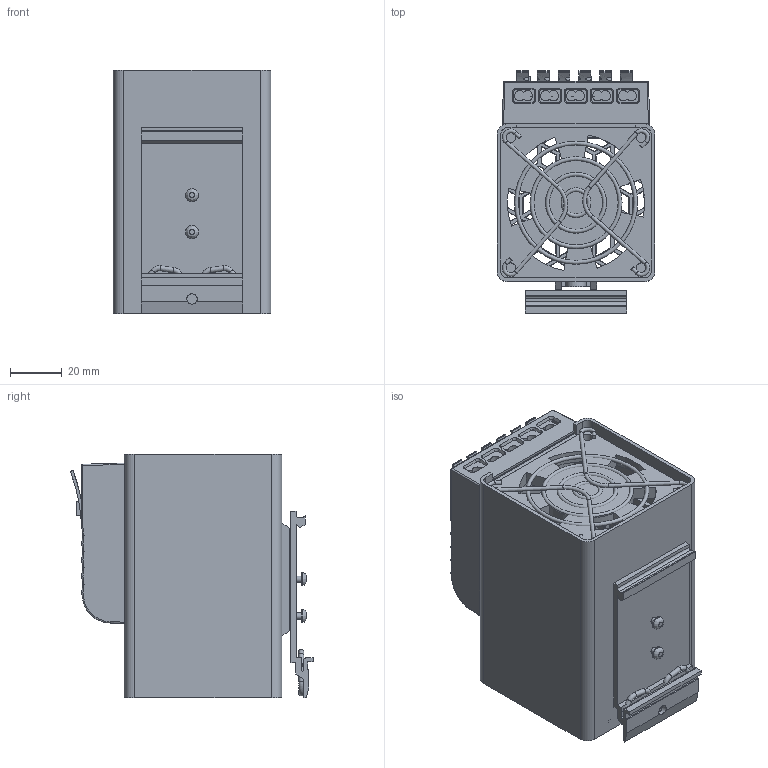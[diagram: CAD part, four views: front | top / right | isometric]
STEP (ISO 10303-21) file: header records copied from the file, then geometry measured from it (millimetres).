
FILE_DESCRIPTION(/* description */ (''),/* implementation_level */ '2;1');
FILE_NAME(/* name */ '3.stp',/* time_stamp */ '2024-12-04T09:36:28+08:00',/* author */ (''),/* organization */ (''),/* preprocessor_version */ 'ST-DEVELOPER v16.7',/* originating_system */ 'SIEMENS PLM Software NX 12.0',/* authorisation */ '');
FILE_SCHEMA (('AUTOMOTIVE_DESIGN { 1 0 10303 214 3 1 1 1 }'));
Length unit declared in the file: millimetre
Products named in the file (1): AdmiC30C400Awof7
Bounding box: 60.8 x 93.42 x 94 mm (x, y, z)
Volume: 90153.8 mm3; surface area: 106716.6 mm2
Topology: 20 solids, 24 shells, 1285 faces, 3528 edges, 2280 vertices
Faces by surface type: plane 847, cylinder 308, cone 51, torus 31, bspline 26, sphere 22
Full cylindrical faces by diameter (mm): 1.5 x8, 2 x6, 2.5 x8, 2.6 x4, 4 x14, 5 x2, 6 x1
Entity records: 41414 total; most frequent: CARTESIAN_POINT 8498, ORIENTED_EDGE 6830, DIRECTION 6573, EDGE_CURVE 3415, LINE 2561, VECTOR 2561, VERTEX_POINT 2262, AXIS2_PLACEMENT_3D 2006
